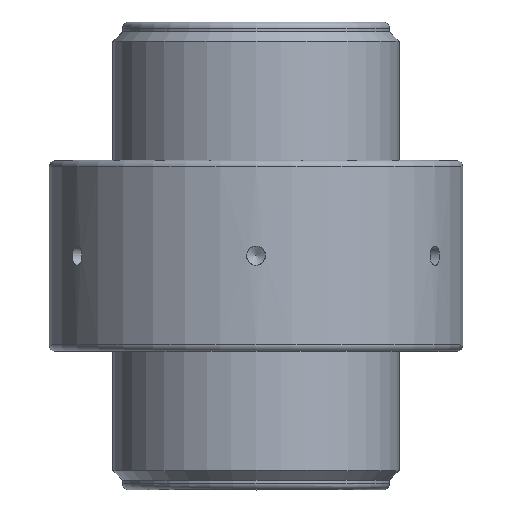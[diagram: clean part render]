
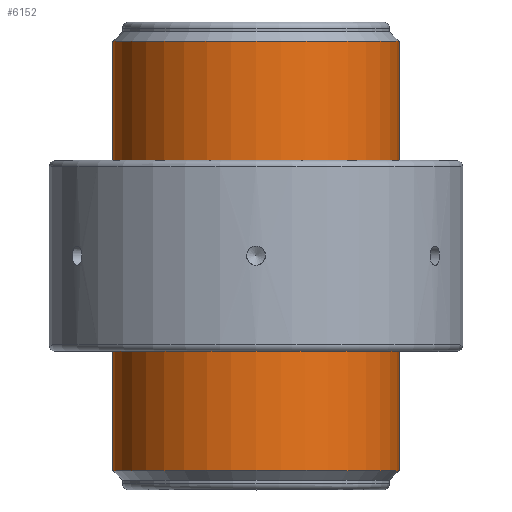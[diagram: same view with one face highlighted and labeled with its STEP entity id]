
A CAD part, top view. The second image highlights one B-rep face of the part: STEP entity #6152.
In plain terms, the highlighted cylindrical face has radius 45 mm (diameter 90 mm), a full revolution.
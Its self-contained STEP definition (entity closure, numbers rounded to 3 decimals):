
#37=CYLINDRICAL_SURFACE('',#6459,45.);
#56=CIRCLE('',#6458,45.);
#57=CIRCLE('',#6460,45.);
#89=FACE_BOUND('',#786,.T.);
#414=FACE_OUTER_BOUND('',#785,.T.);
#785=EDGE_LOOP('',(#4834));
#786=EDGE_LOOP('',(#4835));
#2683=VERTEX_POINT('',#9647);
#2684=VERTEX_POINT('',#9650);
#3458=EDGE_CURVE('',#2683,#2683,#56,.T.);
#3459=EDGE_CURVE('',#2684,#2684,#57,.T.);
#4834=ORIENTED_EDGE('',*,*,#3458,.T.);
#4835=ORIENTED_EDGE('',*,*,#3459,.F.);
#6152=ADVANCED_FACE('',(#414,#89),#37,.T.);
#6458=AXIS2_PLACEMENT_3D('',#9648,#6940,#6941);
#6459=AXIS2_PLACEMENT_3D('',#9649,#6942,#6943);
#6460=AXIS2_PLACEMENT_3D('',#9651,#6944,#6945);
#6940=DIRECTION('center_axis',(0.,-1.,0.));
#6941=DIRECTION('ref_axis',(1.,0.,0.));
#6942=DIRECTION('center_axis',(0.,-1.,0.));
#6943=DIRECTION('ref_axis',(1.,0.,0.));
#6944=DIRECTION('center_axis',(0.,-1.,0.));
#6945=DIRECTION('ref_axis',(1.,0.,0.));
#9647=CARTESIAN_POINT('',(45.,67.5,0.));
#9648=CARTESIAN_POINT('Origin',(0.,67.5,0.));
#9649=CARTESIAN_POINT('Origin',(0.,0.,0.));
#9650=CARTESIAN_POINT('',(45.,-67.5,0.));
#9651=CARTESIAN_POINT('Origin',(0.,-67.5,0.));
